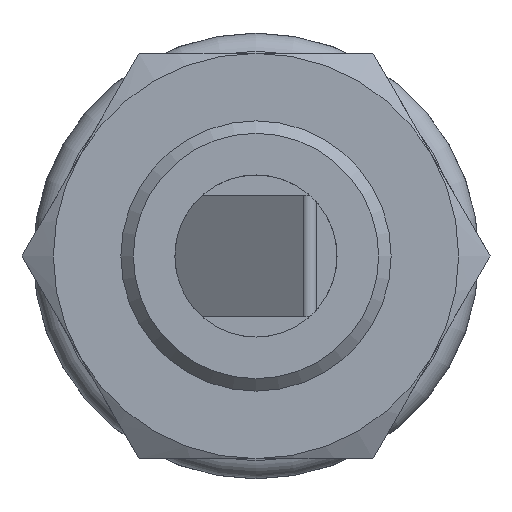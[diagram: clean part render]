
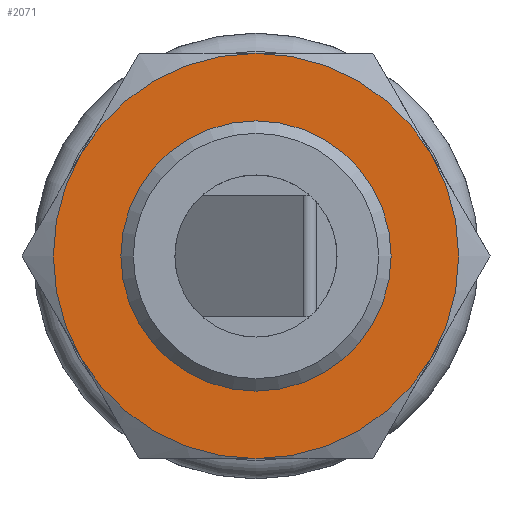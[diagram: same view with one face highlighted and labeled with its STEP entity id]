
A CAD part, front view. The second image highlights one B-rep face of the part: STEP entity #2071.
In plain terms, the highlighted planar face has unit normal (0, -1, 0).
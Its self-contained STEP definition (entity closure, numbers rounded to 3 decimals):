
#218=CIRCLE('',#2253,15.);
#219=CIRCLE('',#2255,15.);
#220=CIRCLE('',#2257,15.);
#221=CIRCLE('',#2259,15.);
#222=CIRCLE('',#2261,15.);
#225=CIRCLE('',#2267,15.);
#226=CIRCLE('',#2269,8.647);
#564=ORIENTED_EDGE('',*,*,#793,.F.);
#565=ORIENTED_EDGE('',*,*,#777,.T.);
#566=ORIENTED_EDGE('',*,*,#780,.T.);
#567=ORIENTED_EDGE('',*,*,#783,.T.);
#568=ORIENTED_EDGE('',*,*,#790,.T.);
#569=ORIENTED_EDGE('',*,*,#773,.T.);
#570=ORIENTED_EDGE('',*,*,#774,.T.);
#773=EDGE_CURVE('',#916,#918,#218,.T.);
#774=EDGE_CURVE('',#918,#919,#219,.T.);
#777=EDGE_CURVE('',#919,#921,#220,.T.);
#780=EDGE_CURVE('',#921,#923,#221,.T.);
#783=EDGE_CURVE('',#923,#925,#222,.T.);
#790=EDGE_CURVE('',#925,#916,#225,.T.);
#793=EDGE_CURVE('',#930,#930,#226,.T.);
#916=VERTEX_POINT('',#3226);
#918=VERTEX_POINT('',#3232);
#919=VERTEX_POINT('',#3236);
#921=VERTEX_POINT('',#3248);
#923=VERTEX_POINT('',#3260);
#925=VERTEX_POINT('',#3272);
#930=VERTEX_POINT('',#3309);
#1179=EDGE_LOOP('',(#564));
#1180=EDGE_LOOP('',(#565,#566,#567,#568,#569,#570));
#1325=FACE_BOUND('',#1179,.T.);
#1326=FACE_BOUND('',#1180,.T.);
#1376=PLANE('',#2268);
#2071=ADVANCED_FACE('',(#1325,#1326),#1376,.F.);
#2253=AXIS2_PLACEMENT_3D('',#3233,#2648,#2649);
#2255=AXIS2_PLACEMENT_3D('',#3235,#2652,#2653);
#2257=AXIS2_PLACEMENT_3D('',#3247,#2656,#2657);
#2259=AXIS2_PLACEMENT_3D('',#3259,#2660,#2661);
#2261=AXIS2_PLACEMENT_3D('',#3271,#2664,#2665);
#2267=AXIS2_PLACEMENT_3D('',#3297,#2676,#2677);
#2268=AXIS2_PLACEMENT_3D('',#3307,#2678,#2679);
#2269=AXIS2_PLACEMENT_3D('',#3308,#2680,#2681);
#2648=DIRECTION('',(0.,-1.,0.));
#2649=DIRECTION('',(0.,0.,-1.));
#2652=DIRECTION('',(0.,-1.,0.));
#2653=DIRECTION('',(0.,0.,-1.));
#2656=DIRECTION('',(0.,-1.,0.));
#2657=DIRECTION('',(0.,0.,-1.));
#2660=DIRECTION('',(0.,-1.,0.));
#2661=DIRECTION('',(0.,0.,-1.));
#2664=DIRECTION('',(0.,-1.,0.));
#2665=DIRECTION('',(0.,0.,-1.));
#2676=DIRECTION('',(0.,-1.,0.));
#2677=DIRECTION('',(0.,0.,-1.));
#2678=DIRECTION('',(0.,1.,0.));
#2679=DIRECTION('',(0.,0.,1.));
#2680=DIRECTION('',(0.,-1.,0.));
#2681=DIRECTION('',(0.,0.,-1.));
#3226=CARTESIAN_POINT('',(-12.99,0.,7.5));
#3232=CARTESIAN_POINT('',(-12.99,0.,-7.5));
#3233=CARTESIAN_POINT('',(0.,0.,0.));
#3235=CARTESIAN_POINT('',(0.,0.,0.));
#3236=CARTESIAN_POINT('',(0.,0.,-15.));
#3247=CARTESIAN_POINT('',(0.,0.,0.));
#3248=CARTESIAN_POINT('',(12.99,0.,-7.5));
#3259=CARTESIAN_POINT('',(0.,0.,0.));
#3260=CARTESIAN_POINT('',(12.99,0.,7.5));
#3271=CARTESIAN_POINT('',(0.,0.,0.));
#3272=CARTESIAN_POINT('',(0.,0.,15.));
#3297=CARTESIAN_POINT('',(0.,0.,0.));
#3307=CARTESIAN_POINT('',(15.,0.,0.));
#3308=CARTESIAN_POINT('',(0.,0.,0.));
#3309=CARTESIAN_POINT('',(0.,0.,-8.647));
